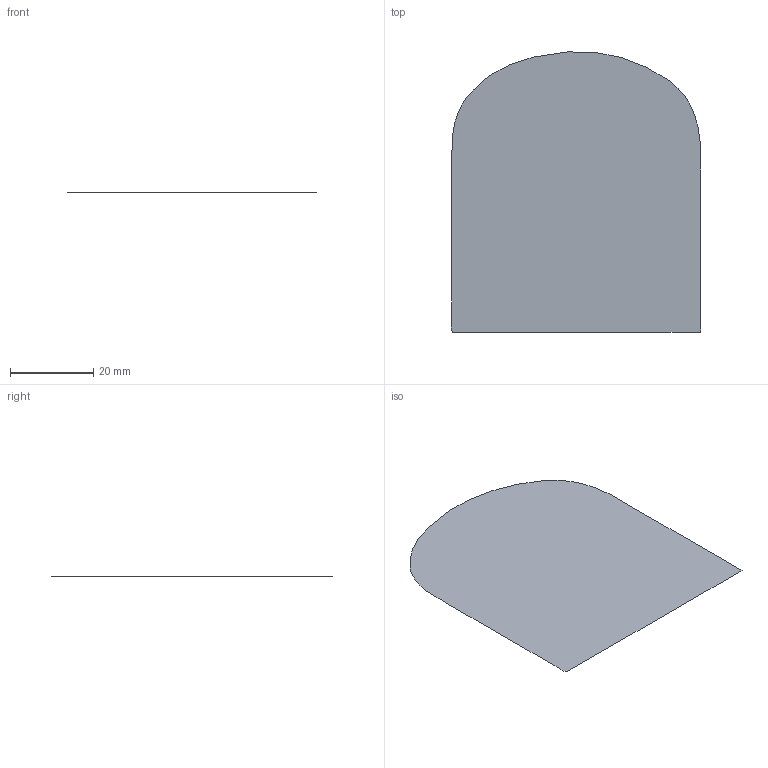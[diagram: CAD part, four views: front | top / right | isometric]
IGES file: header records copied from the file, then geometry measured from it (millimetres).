
Global section: file name: Filename.iges; native system: Open CASCADE 7.9; preprocessor: Open CASCADE IGES processor 7.9; author: HAKAN KARATEKE; date: 20261015.195651; units: millimetre
Bounding box: 60.08 x 67.5 x 0 mm (x, y, z)
Surface area: 3781 mm2 (no closed solid volume)
Topology: 0 solids, 0 shells, 1 faces, 15 edges, 15 vertices
Faces by surface type: plane 1
